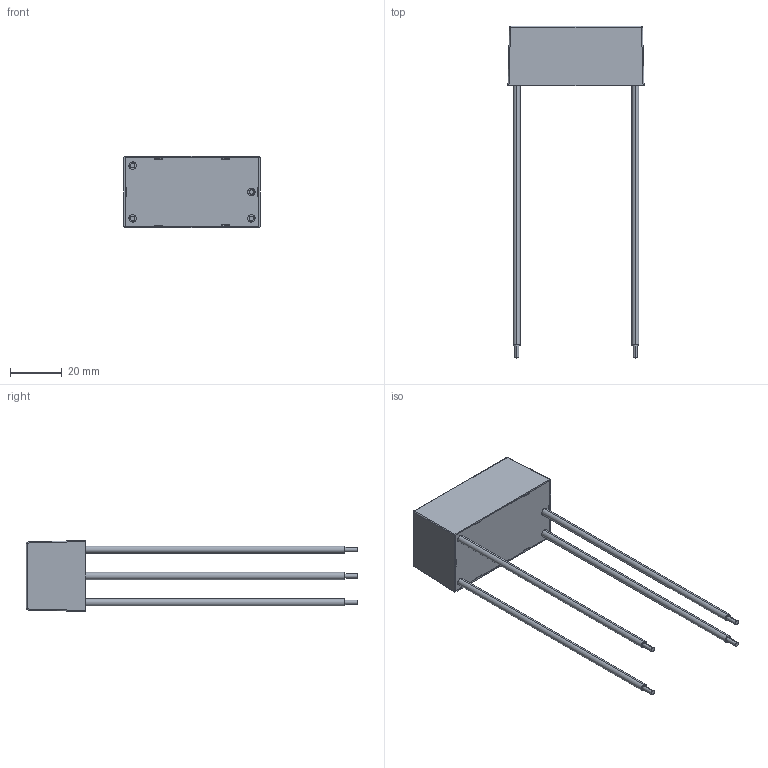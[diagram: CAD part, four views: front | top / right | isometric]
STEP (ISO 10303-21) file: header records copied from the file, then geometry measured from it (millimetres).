
FILE_DESCRIPTION(('FreeCAD Model'),'2;1');
FILE_NAME('X:/Application Engineering/4 Documentation/3 Users/1 MaS/3D Projekt/RAC20-K_W_3D_20190724.step','2019-07-24T10:39:08',('Author'),('' ),'Open CASCADE STEP processor 7.3','FreeCAD','Unknown');
FILE_SCHEMA(('AUTOMOTIVE_DESIGN { 1 0 10303 214 1 1 1 1 }'));
Length unit declared in the file: millimetre
Products named in the file (3): RAC20-K_W_baseplate; RAC20-K_W_case; RAC20-K_W_wires
Bounding box: 52.5 x 128 x 27.4 mm (x, y, z)
Volume: 13289.1 mm3; surface area: 20306.6 mm2
Topology: 3 solids, 3 shells, 256 faces, 665 edges, 436 vertices
Faces by surface type: plane 187, cylinder 57, cone 8, sphere 4
Entity records: 7812 total; most frequent: CARTESIAN_POINT 1366, ORIENTED_EDGE 1322, DIRECTION 1297, EDGE_CURVE 661, LINE 531, VECTOR 531, VERTEX_POINT 436, AXIS2_PLACEMENT_3D 383
